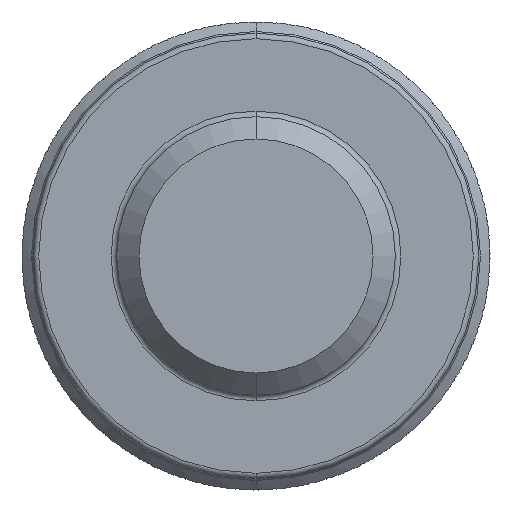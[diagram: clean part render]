
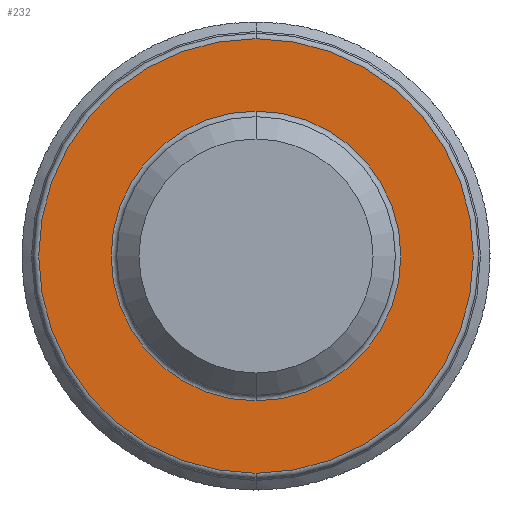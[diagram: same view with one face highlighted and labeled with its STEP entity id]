
A CAD part, front view. The second image highlights one B-rep face of the part: STEP entity #232.
In plain terms, the highlighted planar face has unit normal (0, -1, 0).
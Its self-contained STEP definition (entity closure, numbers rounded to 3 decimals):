
#85 = DIRECTION ( 'NONE',  ( 0., -1., 0. ) ) ;
#169 = CARTESIAN_POINT ( 'NONE',  ( 0., -5., 0. ) ) ;
#194 = AXIS2_PLACEMENT_3D ( 'NONE', #4586, #3951, #1288 ) ;
#232 = ADVANCED_FACE ( 'NONE', ( #6590, #6632 ), #1348, .T. ) ;
#426 = VERTEX_POINT ( 'NONE', #3197 ) ;
#594 = CARTESIAN_POINT ( 'NONE',  ( 0., -5., 3.9 ) ) ;
#713 = DIRECTION ( 'NONE',  ( 0., -1., 0. ) ) ;
#1288 = DIRECTION ( 'NONE',  ( 0., 0., -1. ) ) ;
#1348 = PLANE ( 'NONE',  #5899 ) ;
#1873 = ORIENTED_EDGE ( 'NONE', *, *, #3774, .T. ) ;
#2027 = CARTESIAN_POINT ( 'NONE',  ( 0., -5., 0. ) ) ;
#2097 = CARTESIAN_POINT ( 'NONE',  ( 0., -5., -3.9 ) ) ;
#2108 = DIRECTION ( 'NONE',  ( 0., 0., -1. ) ) ;
#2319 = EDGE_CURVE ( 'NONE', #6180, #2896, #5475, .T. ) ;
#2632 = CIRCLE ( 'NONE', #7623, 3.9 ) ;
#2643 = DIRECTION ( 'NONE',  ( 0., 0., -1. ) ) ;
#2896 = VERTEX_POINT ( 'NONE', #594 ) ;
#3197 = CARTESIAN_POINT ( 'NONE',  ( 0., -5., 2.6 ) ) ;
#3288 = DIRECTION ( 'NONE',  ( 0., 0., -1. ) ) ;
#3453 = CIRCLE ( 'NONE', #4243, 2.6 ) ;
#3513 = EDGE_LOOP ( 'NONE', ( #3993, #4099 ) ) ;
#3578 = AXIS2_PLACEMENT_3D ( 'NONE', #169, #3885, #7828 ) ;
#3700 = CIRCLE ( 'NONE', #3578, 2.6 ) ;
#3746 = EDGE_CURVE ( 'NONE', #2896, #6180, #2632, .T. ) ;
#3774 = EDGE_CURVE ( 'NONE', #7830, #426, #3700, .T. ) ;
#3885 = DIRECTION ( 'NONE',  ( 0., 1., 0. ) ) ;
#3951 = DIRECTION ( 'NONE',  ( 0., -1., 0. ) ) ;
#3993 = ORIENTED_EDGE ( 'NONE', *, *, #2319, .T. ) ;
#4073 = EDGE_CURVE ( 'NONE', #426, #7830, #3453, .T. ) ;
#4099 = ORIENTED_EDGE ( 'NONE', *, *, #3746, .T. ) ;
#4243 = AXIS2_PLACEMENT_3D ( 'NONE', #6439, #7757, #2643 ) ;
#4586 = CARTESIAN_POINT ( 'NONE',  ( 0., -5., 0. ) ) ;
#5475 = CIRCLE ( 'NONE', #194, 3.9 ) ;
#5849 = EDGE_LOOP ( 'NONE', ( #1873, #6579 ) ) ;
#5899 = AXIS2_PLACEMENT_3D ( 'NONE', #5997, #713, #3288 ) ;
#5997 = CARTESIAN_POINT ( 'NONE',  ( 2.5, -5., 0. ) ) ;
#6009 = CARTESIAN_POINT ( 'NONE',  ( 0., -5., -2.6 ) ) ;
#6180 = VERTEX_POINT ( 'NONE', #2097 ) ;
#6439 = CARTESIAN_POINT ( 'NONE',  ( 0., -5., 0. ) ) ;
#6579 = ORIENTED_EDGE ( 'NONE', *, *, #4073, .T. ) ;
#6590 = FACE_BOUND ( 'NONE', #5849, .T. ) ;
#6632 = FACE_OUTER_BOUND ( 'NONE', #3513, .T. ) ;
#7623 = AXIS2_PLACEMENT_3D ( 'NONE', #2027, #85, #2108 ) ;
#7757 = DIRECTION ( 'NONE',  ( 0., 1., 0. ) ) ;
#7828 = DIRECTION ( 'NONE',  ( 0., 0., -1. ) ) ;
#7830 = VERTEX_POINT ( 'NONE', #6009 ) ;
